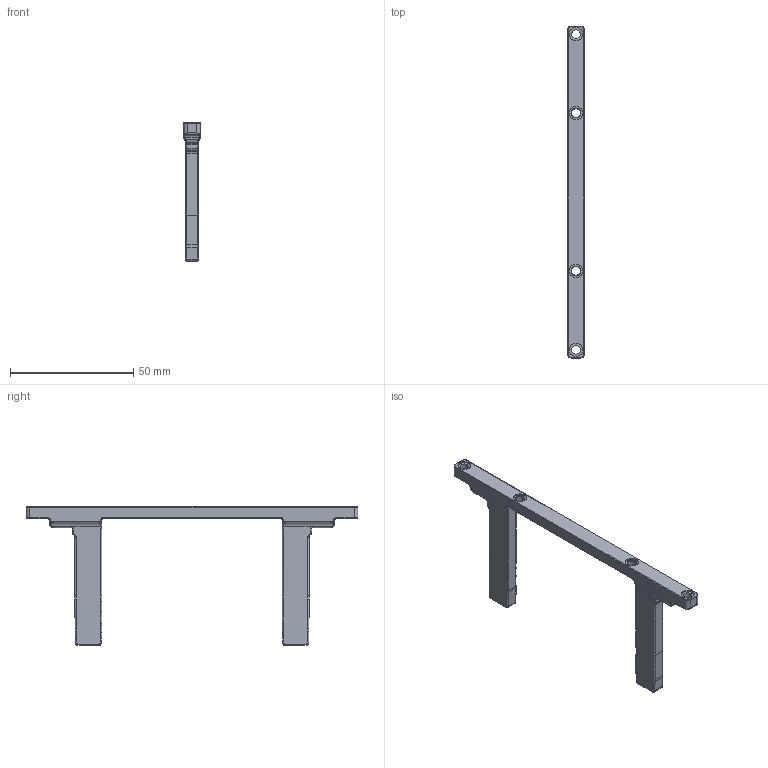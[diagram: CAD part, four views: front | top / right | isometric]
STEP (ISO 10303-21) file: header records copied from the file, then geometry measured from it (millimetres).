
FILE_DESCRIPTION (( 'STEP AP203' ), '1' );
FILE_NAME ('TB03011.STEP', '2019-07-08T06:08:33', ( 'ww' ), ( 'Microsoft' ), 'SwSTEP 2.0', 'SolidWorks 2012', '' );
FILE_SCHEMA (( 'CONFIG_CONTROL_DESIGN' ));
Length unit declared in the file: millimetre
Products named in the file (1): TB03011
Bounding box: 6.8 x 134.6 x 56.3 mm (x, y, z)
Volume: 10307.4 mm3; surface area: 6976.5 mm2
Topology: 1 solids, 5 shells, 506 faces, 1186 edges, 692 vertices
Faces by surface type: cylinder 204, plane 102, torus 84, bspline 84, sphere 24, cone 8
Entity records: 15739 total; most frequent: CARTESIAN_POINT 4605, ORIENTED_EDGE 2368, DIRECTION 2342, EDGE_CURVE 1184, AXIS2_PLACEMENT_3D 943, VERTEX_POINT 692, CIRCLE 520, EDGE_LOOP 518
